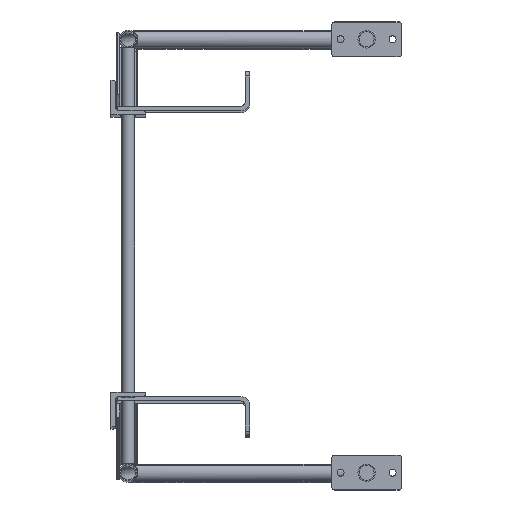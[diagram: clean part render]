
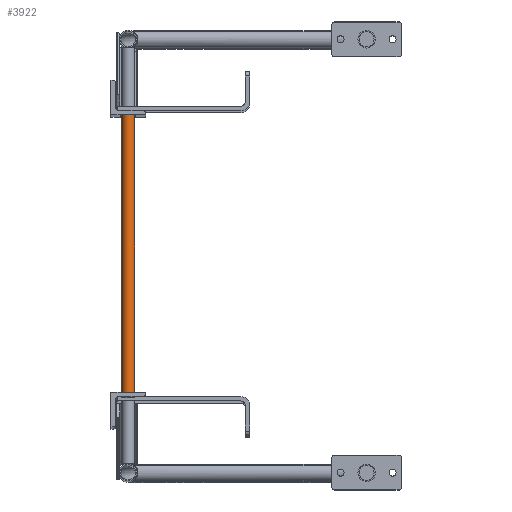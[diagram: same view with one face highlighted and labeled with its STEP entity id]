
A CAD part, top view. The second image highlights one B-rep face of the part: STEP entity #3922.
In plain terms, the highlighted cylindrical face has radius 9.525 mm (diameter 19.05 mm), a full revolution.
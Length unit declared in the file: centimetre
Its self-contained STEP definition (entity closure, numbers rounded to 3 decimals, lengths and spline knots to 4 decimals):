
#724=FACE_BOUND('',#1095,.T.);
#856=FACE_OUTER_BOUND('',#1094,.T.);
#1094=EDGE_LOOP('',(#2614));
#1095=EDGE_LOOP('',(#2615));
#1436=CIRCLE('',#4194,0.9525);
#1437=CIRCLE('',#4195,0.9525);
#1672=VERTEX_POINT('',#6095);
#1673=VERTEX_POINT('',#6097);
#2054=EDGE_CURVE('',#1672,#1672,#1436,.T.);
#2055=EDGE_CURVE('',#1673,#1673,#1437,.T.);
#2614=ORIENTED_EDGE('',*,*,#2054,.T.);
#2615=ORIENTED_EDGE('',*,*,#2055,.F.);
#3566=CYLINDRICAL_SURFACE('',#4193,0.9525);
#3922=ADVANCED_FACE('',(#856,#724),#3566,.T.);
#4193=AXIS2_PLACEMENT_3D('',#6094,#4711,#4712);
#4194=AXIS2_PLACEMENT_3D('',#6096,#4713,#4714);
#4195=AXIS2_PLACEMENT_3D('',#6098,#4715,#4716);
#4711=DIRECTION('center_axis',(0.,1.,0.));
#4712=DIRECTION('ref_axis',(1.,0.,0.));
#4713=DIRECTION('center_axis',(0.,-1.,0.));
#4714=DIRECTION('ref_axis',(1.,0.,0.));
#4715=DIRECTION('center_axis',(0.,-1.,0.));
#4716=DIRECTION('ref_axis',(1.,0.,0.));
#6094=CARTESIAN_POINT('Origin',(2.54,-41.4338,217.17));
#6095=CARTESIAN_POINT('',(1.5875,0.4762,217.17));
#6096=CARTESIAN_POINT('Origin',(2.54,0.4762,217.17));
#6097=CARTESIAN_POINT('',(1.5875,-41.4338,217.17));
#6098=CARTESIAN_POINT('Origin',(2.54,-41.4338,217.17));
